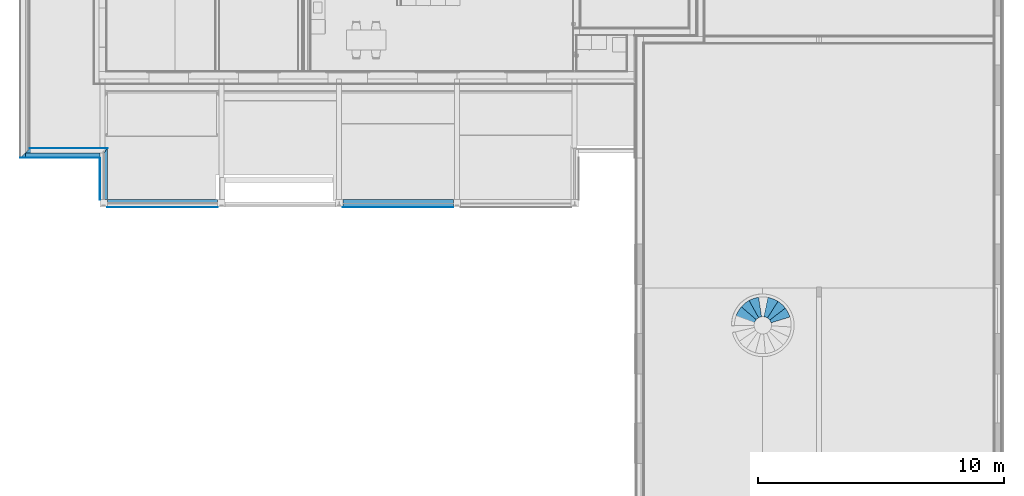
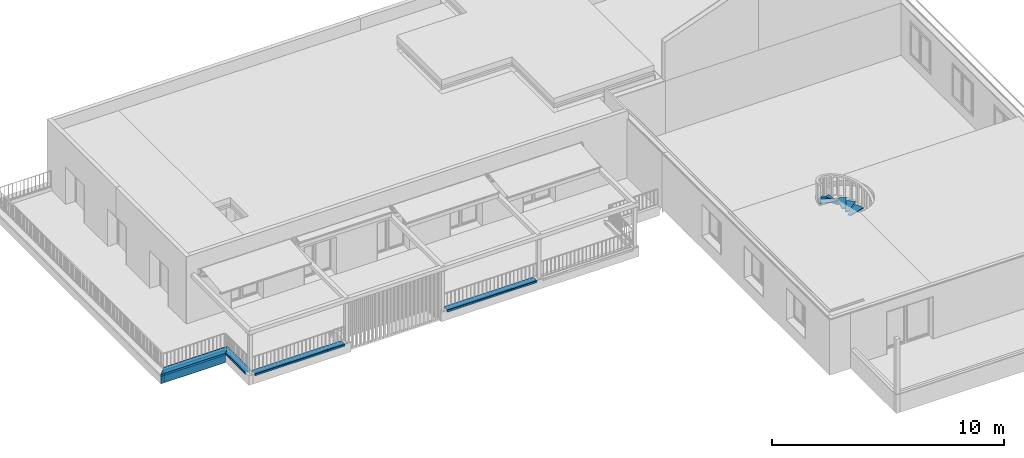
# One storey, part 5 of 36: 16 building element parts, 6 elements without a shape of their own.
"""IFC4 building model written with IfcOpenShell, lengths in millimetres."""

import ifcopenshell
import ifcopenshell.guid

model = None  # the IFC model being written
_history = None  # IfcOwnerHistory: only IFC2X3 demands one
_inside = {}  # id of a spatial element -> (the spatial element, [elements in it])
_under = {}  # id of a project, library or spatial element -> (it, [spatial elements below it])
_declared = {}  # id of a project -> (the project, [libraries it declares])
_typed = {}  # id of a type object -> (the type object, [elements of that type])
_made_of = {}  # id of a material, layer set ... -> (it, [elements and type objects made of it])


def new_model(schema):
    """Start an empty IFC model of exactly this schema.

    Asked for "IFC4X3", IfcOpenShell would pick the latest addendum, in which some entities
    have other attributes; the version numbers below select the first issue.
    IFC2X3 requires an IfcOwnerHistory on every rooted entity: one is made here for all.
    """
    global model, _history
    if schema == "IFC4X3":
        model = ifcopenshell.file(schema_version=(4, 3, 0, 0))
    else:
        model = ifcopenshell.file(schema=schema)
    _inside.clear()
    _under.clear()
    _declared.clear()
    _typed.clear()
    _made_of.clear()
    _history = None
    if model.schema == "IFC2X3":
        org = make("IfcOrganization", Name="unknown")
        user = make(
            "IfcPersonAndOrganization",
            ThePerson=make("IfcPerson", FamilyName="unknown"),
            TheOrganization=org,
        )
        app = make(
            "IfcApplication",
            ApplicationDeveloper=org,
            Version="unknown",
            ApplicationFullName="unknown",
            ApplicationIdentifier="unknown",
        )
        _history = make(
            "IfcOwnerHistory",
            OwningUser=user,
            OwningApplication=app,
            ChangeAction="ADDED",
            CreationDate=0,
        )
    return model


def make(cls, **values):
    """One entity of the class cls with the attributes given. An attribute that is None is left unset."""
    return model.create_entity(
        cls, **{name: value for name, value in values.items() if value is not None}
    )


def entity(cls, *values):
    """Any entity or typed value of the class cls, its attributes in the order of the schema. None: left unset."""
    e = model.create_entity(cls)
    for i, value in enumerate(values):
        if value is not None:
            e[i] = value
    return e


def rooted(cls, **values):
    """An entity with a GlobalId (a new one), such as an element, a storey or a relation."""
    return make(cls, GlobalId=ifcopenshell.guid.new(), OwnerHistory=_history, **values)


def si_unit(unit_type, name, prefix=None):
    """IfcSIUnit, for example si_unit("LENGTHUNIT", "METRE", prefix="MILLI")."""
    return make("IfcSIUnit", UnitType=unit_type, Prefix=prefix, Name=name)


def converted_unit(unit_type, name, factor, base, dimensions=None, offset=None):
    """IfcConversionBasedUnit, such as the inch: factor (a typed value) times the base unit."""
    return make(
        "IfcConversionBasedUnit"
        if offset is None
        else "IfcConversionBasedUnitWithOffset",
        ConversionOffset=offset,
        Dimensions=None
        if dimensions is None
        else entity("IfcDimensionalExponents", *dimensions),
        UnitType=unit_type,
        Name=name,
        ConversionFactor=make(
            "IfcMeasureWithUnit", ValueComponent=factor, UnitComponent=base
        ),
    )


def derived_unit(unit_type, elements):
    """IfcDerivedUnit: a product of units, each with its exponent."""
    return make(
        "IfcDerivedUnit",
        Elements=[
            make("IfcDerivedUnitElement", Unit=unit, Exponent=power)
            for unit, power in elements
        ],
        UnitType=unit_type,
    )


def assignment(units):
    """IfcUnitAssignment: the units of a project."""
    return None if units is None else make("IfcUnitAssignment", Units=units)


def point(xyz):
    """IfcCartesianPoint."""
    return None if xyz is None else make("IfcCartesianPoint", Coordinates=xyz)


def direction(xyz):
    """IfcDirection."""
    return None if xyz is None else make("IfcDirection", DirectionRatios=xyz)


def frame(location, z_axis=None, x_axis=None):
    """IfcAxis2Placement3D, a coordinate frame: its origin and axes. An axis left out is left unset."""
    return make(
        "IfcAxis2Placement3D",
        Location=point(location),
        Axis=direction(z_axis),
        RefDirection=direction(x_axis),
    )


def origin_with_axes():
    """The frame at (0, 0, 0) with the z axis (0, 0, 1) and the x axis (1, 0, 0) written out."""
    return frame((0.0, 0.0, 0.0), z_axis=(0.0, 0.0, 1.0), x_axis=(1.0, 0.0, 0.0))


def place(relative_to, where):
    """IfcLocalPlacement: puts the frame where relative to a parent placement (None: the world)."""
    return make(
        "IfcLocalPlacement", PlacementRelTo=relative_to, RelativePlacement=where
    )


def context(
    kind, dimensions, precision=None, world=None, true_north=None, identifier=None
):
    """IfcGeometricRepresentationContext, for example the 3D "Model" context."""
    return make(
        "IfcGeometricRepresentationContext",
        ContextIdentifier=identifier,
        ContextType=kind,
        CoordinateSpaceDimension=dimensions,
        Precision=precision,
        WorldCoordinateSystem=world,
        TrueNorth=true_north,
    )


def subcontext(parent, identifier, kind, view, scale=None):
    """IfcGeometricRepresentationSubContext, for example "Body" below "Model"."""
    return make(
        "IfcGeometricRepresentationSubContext",
        ContextIdentifier=identifier,
        ContextType=kind,
        ParentContext=parent,
        TargetScale=scale,
        TargetView=view,
    )


def project(units=None, contexts=None):
    """IfcProject with its units and contexts."""
    return rooted(
        "IfcProject",
        Name="project",
        RepresentationContexts=contexts,
        UnitsInContext=assignment(units),
    )


def spatial(cls, under=None, at=None, **own):
    """A site, building, storey or space (cls), placed at a placement, below another one or the project."""
    s = rooted(cls, ObjectPlacement=at, **own)
    if under is not None:
        _under.setdefault(under.id(), (under, []))[1].append(s)
    return s


def point_list(points):
    """IfcCartesianPointList2D or 3D."""
    cls = (
        "IfcCartesianPointList2D" if len(points[0]) == 2 else "IfcCartesianPointList3D"
    )
    return make(cls, CoordList=points)


def polygons(points, faces, closed=None, point_numbers=None):
    """IfcPolygonalFaceSet: a face is its outer loop, then its inner loops; points numbered from 1."""
    made = []
    for loops in faces:
        if len(loops) == 1:
            made.append(make("IfcIndexedPolygonalFace", CoordIndex=loops[0]))
        else:
            made.append(
                make(
                    "IfcIndexedPolygonalFaceWithVoids",
                    CoordIndex=loops[0],
                    InnerCoordIndices=loops[1:],
                )
            )
    return make(
        "IfcPolygonalFaceSet",
        Coordinates=point_list(points),
        Closed=closed,
        Faces=made,
        PnIndex=point_numbers,
    )


def shape(context_of_items, identifier, shape_type, items):
    """IfcShapeRepresentation: the items that make up one representation, for example the "Body"."""
    return make(
        "IfcShapeRepresentation",
        ContextOfItems=context_of_items,
        RepresentationIdentifier=identifier,
        RepresentationType=shape_type,
        Items=items,
    )


def material(Name=None, Category=None):
    """IfcMaterial."""
    return make("IfcMaterial", Name=Name, Category=Category)


def made_of(thing, what):
    """Note that an element or type object is made of a material, layer set ...; save() writes the relation."""
    if what is not None:
        _made_of.setdefault(what.id(), (what, []))[1].append(thing)
    return thing


def type_object(cls, material=None, **own):
    """A type object (cls), such as IfcWallType, which elements share."""
    return made_of(rooted(cls, **own), material)


def element(
    cls,
    number,
    at=None,
    inside=None,
    cuts=None,
    type_object=None,
    material=None,
    context=None,
    identifier="Body",
    shape_type=None,
    held_by="IfcProductDefinitionShape",
    body=None,
    shapes=None,
    **own,
):
    """One element of the class cls, such as IfcWall. Its Tag is "e" and its number.

    at: its placement. inside: the storey or other place that contains it. cuts: it is an
    opening in that element (IfcRelVoidsElement). A single representation is given by context,
    identifier, shape_type and body (its items); several are given by shapes. held_by: the class
    of the entity that holds the representations. save() writes the other relations.
    """
    e = rooted(cls, Tag="e%d" % number, ObjectPlacement=at, **own)
    if body is not None:
        shapes = [shape(context, identifier, shape_type, body)]
    if shapes is not None:
        e.Representation = make(held_by, Representations=shapes)
    if inside is not None:
        _inside.setdefault(inside.id(), (inside, []))[1].append(e)
    if cuts is not None:
        rooted(
            "IfcRelVoidsElement", RelatingBuildingElement=cuts, RelatedOpeningElement=e
        )
    if type_object is not None:
        _typed.setdefault(type_object.id(), (type_object, []))[1].append(e)
    return made_of(e, material)


def aggregate(whole, parts):
    """IfcRelAggregates: a whole, such as a stair, and the parts it consists of."""
    return rooted("IfcRelAggregates", RelatingObject=whole, RelatedObjects=parts)


def save(model, path):
    """Write the relations noted so far, then the file.

    IfcRelAggregates (storeys below a building ...), IfcRelContainedInSpatialStructure (elements
    in a storey), IfcRelDefinesByType, IfcRelAssociatesMaterial and IfcRelDeclares: one each for
    every whole, place, type object, material and project.
    """
    for whole, parts in _under.values():
        aggregate(whole, parts)
    for where, things in _inside.values():
        rooted(
            "IfcRelContainedInSpatialStructure",
            RelatedElements=things,
            RelatingStructure=where,
        )
    for kind, things in _typed.values():
        rooted("IfcRelDefinesByType", RelatedObjects=things, RelatingType=kind)
    for what, things in _made_of.values():
        rooted("IfcRelAssociatesMaterial", RelatedObjects=things, RelatingMaterial=what)
    for by, libraries in _declared.values():
        rooted("IfcRelDeclares", RelatingContext=by, RelatedDefinitions=libraries)
    model.write(path)


model = new_model("IFC4")

# Units and contexts
model_context = context("Model", 3, precision=0.01, world=origin_with_axes(), true_north=direction((0.0, 1.0)))
body_context = subcontext(model_context, "Body", "Model", "MODEL_VIEW")
ifc_project = project(units=[si_unit("LENGTHUNIT", "METRE", prefix="MILLI"), si_unit("AREAUNIT", "SQUARE_METRE"), si_unit("VOLUMEUNIT", "CUBIC_METRE"), converted_unit("PLANEANGLEUNIT", "DEGREE", entity("IfcPlaneAngleMeasure", 0.0174532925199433), si_unit("PLANEANGLEUNIT", "RADIAN"), dimensions=[0, 0, 0, 0, 0, 0, 0]), converted_unit("TIMEUNIT", "Year", entity("IfcTimeMeasure", 31557600.0), si_unit("TIMEUNIT", "SECOND"), dimensions=[0, 0, 1, 0, 0, 0, 0]), si_unit("MASSUNIT", "GRAM", prefix="KILO"), si_unit("THERMODYNAMICTEMPERATUREUNIT", "DEGREE_CELSIUS"), si_unit("LUMINOUSINTENSITYUNIT", "LUMEN"), si_unit("ENERGYUNIT", "JOULE", prefix="MEGA"), derived_unit("THERMALCONDUCTANCEUNIT", [(si_unit("POWERUNIT", "WATT"), 1), (si_unit("LENGTHUNIT", "METRE"), -1), (si_unit("THERMODYNAMICTEMPERATUREUNIT", "KELVIN"), -1)]), derived_unit("SPECIFICHEATCAPACITYUNIT", [(si_unit("ENERGYUNIT", "JOULE"), 1), (si_unit("MASSUNIT", "GRAM", prefix="KILO"), -1), (si_unit("THERMODYNAMICTEMPERATUREUNIT", "KELVIN"), -1)]), derived_unit("MASSDENSITYUNIT", [(si_unit("MASSUNIT", "GRAM", prefix="KILO"), 1), (si_unit("VOLUMEUNIT", "CUBIC_METRE"), -1)])], contexts=[model_context])

# Site, building, storey
site_placement = place(None, origin_with_axes())
site = spatial("IfcSite", under=ifc_project, at=site_placement, Name="Gelände", CompositionType="ELEMENT")
building_placement = place(site_placement, origin_with_axes())
building = spatial("IfcBuilding", under=site, at=building_placement, Name="Gebäude", CompositionType="ELEMENT")
storey_placement = place(building_placement, frame((0.0, 0.0, 8700.0), z_axis=(0.0, 0.0, 1.0), x_axis=(1.0, 0.0, 0.0)))
storey = spatial("IfcBuildingStorey", under=building, at=storey_placement, Name="Attika", CompositionType="ELEMENT", Elevation=8700.0)

# Stair, building element parts
stair_type = type_object("IfcStairType", Name="Treppentyp", PredefinedType="NOTDEFINED")
stair_placement = place(storey_placement, frame((22020.85993748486, 15863.01699226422, 650.0000000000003), z_axis=(0.0, 0.0, 1.0), x_axis=(0.8601646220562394, -0.5100164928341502, 0.0)))
stair = element("IfcStair", 1, at=stair_placement, inside=storey, type_object=stair_type, Name="Treppe-001", PredefinedType="NOTDEFINED")
ifc_material_1 = material(Name="Vollholzwerkstoff")
building_element_part_1_placement = place(stair_placement, origin_with_axes())
building_element_part_1 = element("IfcBuildingElementPart", 2, at=building_element_part_1_placement, material=ifc_material_1, Name="Vollholzwerkstoff", PredefinedType="NOTDEFINED", context=body_context, shape_type="Tessellation", body=[
    polygons([(956.5999132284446, 1134.421102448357, 1739.411697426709), (1255.364837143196, 1876.539368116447, 1739.411697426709), (1255.364837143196, 1876.539368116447, 1779.411697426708), (956.5999132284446, 1134.421102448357, 1779.411697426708), (907.2066737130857, 1150.205732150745, 1739.411697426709), (856.0355163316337, 1158.593777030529, 1739.411697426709), (804.1877676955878, 1159.404706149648, 1739.411697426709), (825.9681831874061, 1959.993727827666, 1739.411697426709), (913.8979181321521, 1956.532647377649, 1739.411697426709), (1001.307912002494, 1946.378321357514, 1739.411697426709), (1087.689418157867, 1929.589850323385, 1739.411697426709), (1172.53967599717, 1906.26494710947, 1739.411697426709), (1172.53967599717, 1906.26494710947, 1779.411697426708), (1087.689418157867, 1929.589850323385, 1779.411697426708), (1001.307912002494, 1946.378321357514, 1779.411697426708), (913.8979181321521, 1956.532647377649, 1779.411697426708), (825.9681831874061, 1959.993727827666, 1779.411697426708), (804.1877676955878, 1159.404706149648, 1779.411697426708), (856.0355163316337, 1158.593777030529, 1779.411697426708), (907.2066737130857, 1150.205732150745, 1779.411697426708)], [[[1, 2, 3, 4]], [[1, 5, 6, 7, 8, 9, 10, 11, 12, 2]], [[2, 12, 13, 3]], [[4, 3, 13, 14, 15, 16, 17, 18, 19, 20]], [[5, 1, 4, 20]], [[6, 5, 20, 19]], [[7, 6, 19, 18]], [[8, 7, 18, 17]], [[9, 8, 17, 16]], [[10, 9, 16, 15]], [[11, 10, 15, 14]], [[12, 11, 14, 13]]], closed=True),
])
building_element_part_2_placement = place(stair_placement, origin_with_axes())
building_element_part_2 = element("IfcBuildingElementPart", 3, at=building_element_part_2_placement, material=ifc_material_1, Name="Vollholzwerkstoff", PredefinedType="NOTDEFINED", context=body_context, shape_type="Tessellation", body=[
    polygons([(834.2113578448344, 1159.863809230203, 1901.176397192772), (855.967698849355, 1959.567918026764, 1901.176397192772), (855.967698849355, 1959.567918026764, 1941.176397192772), (834.2113578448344, 1159.863809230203, 1941.176397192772), (782.4126450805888, 1157.467979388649, 1901.176397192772), (731.5218826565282, 1147.519263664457, 1901.176397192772), (682.6343624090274, 1130.231782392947, 1901.176397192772), (424.3754214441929, 1888.334339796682, 1901.176397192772), (508.0108894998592, 1915.697195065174, 1901.176397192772), (593.488974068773, 1936.604476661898, 1901.176397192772), (680.312172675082, 1950.934499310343, 1901.176397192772), (767.9751539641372, 1958.603858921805, 1901.176397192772), (767.9751539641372, 1958.603858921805, 1941.176397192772), (680.312172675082, 1950.934499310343, 1941.176397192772), (593.488974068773, 1936.604476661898, 1941.176397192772), (508.0108894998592, 1915.697195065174, 1941.176397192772), (424.3754214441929, 1888.334339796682, 1941.176397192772), (682.6343624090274, 1130.231782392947, 1941.176397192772), (731.5218826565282, 1147.519263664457, 1941.176397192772), (782.4126450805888, 1157.467979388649, 1941.176397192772)], [[[1, 2, 3, 4]], [[1, 5, 6, 7, 8, 9, 10, 11, 12, 2]], [[2, 12, 13, 3]], [[4, 3, 13, 14, 15, 16, 17, 18, 19, 20]], [[5, 1, 4, 20]], [[6, 5, 20, 19]], [[7, 6, 19, 18]], [[8, 7, 18, 17]], [[9, 8, 17, 16]], [[10, 9, 16, 15]], [[11, 10, 15, 14]], [[12, 11, 14, 13]]], closed=True),
])
building_element_part_3_placement = place(stair_placement, origin_with_axes())
building_element_part_3 = element("IfcBuildingElementPart", 4, at=building_element_part_3_placement, material=ifc_material_1, Name="Vollholzwerkstoff", PredefinedType="NOTDEFINED", context=body_context, shape_type="Tessellation", body=[
    polygons([(601.2858266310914, 1080.514253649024, 2224.705796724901), (95.8493175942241, 1700.622256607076, 2224.705796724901), (95.8493175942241, 1700.622256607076, 2264.705796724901), (601.2858266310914, 1080.514253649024, 2264.705796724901), (563.6033039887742, 1044.892994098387, 2224.705796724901), (531.5380359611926, 1004.141733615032, 2224.705796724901), (505.7801443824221, 959.1375375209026, 2224.705796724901), (-184.6636001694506, 1364.975687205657, 2224.705796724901), (-139.1539706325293, 1440.291628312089, 2224.705796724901), (-88.03507349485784, 1511.918967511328, 2224.705796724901), (-31.60443271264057, 1579.4408169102, 2224.705796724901), (29.80951216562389, 1642.46418352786, 2224.705796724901), (29.80951216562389, 1642.46418352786, 2264.705796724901), (-31.60443271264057, 1579.4408169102, 2264.705796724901), (-88.03507349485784, 1511.918967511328, 2264.705796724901), (-139.1539706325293, 1440.291628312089, 2264.705796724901), (-184.6636001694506, 1364.975687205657, 2264.705796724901), (505.7801443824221, 959.1375375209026, 2264.705796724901), (531.5380359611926, 1004.141733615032, 2264.705796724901), (563.6033039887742, 1044.892994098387, 2264.705796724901)], [[[1, 2, 3, 4]], [[1, 5, 6, 7, 8, 9, 10, 11, 12, 2]], [[2, 12, 13, 3]], [[4, 3, 13, 14, 15, 16, 17, 18, 19, 20]], [[5, 1, 4, 20]], [[6, 5, 20, 19]], [[7, 6, 19, 18]], [[8, 7, 18, 17]], [[9, 8, 17, 16]], [[10, 9, 16, 15]], [[11, 10, 15, 14]], [[12, 11, 14, 13]]], closed=True),
])
building_element_part_4_placement = place(stair_placement, origin_with_axes())
building_element_part_4 = element("IfcBuildingElementPart", 5, at=building_element_part_4_placement, material=ifc_material_1, Name="Vollholzwerkstoff", PredefinedType="NOTDEFINED", context=body_context, shape_type="Tessellation", body=[
    polygons([(519.8826974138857, 985.6468705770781, 2386.470496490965), (-169.7978808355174, 1391.036436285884, 2386.470496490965), (-169.7978808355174, 1391.036436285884, 2426.470496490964), (519.8826974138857, 985.6468705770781, 2426.470496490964), (496.9562141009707, 939.1364093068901, 2386.470496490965), (481.0813913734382, 889.7720836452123, 2386.470496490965), (472.5998936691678, 838.616332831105, 2386.470496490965), (-315.9325112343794, 978.7370470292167, 2386.470496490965), (-299.4857518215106, 1065.184264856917, 2386.470496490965), (-276.4965562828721, 1150.126093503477, 2386.470496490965), (-247.0987271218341, 1233.068151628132, 2386.470496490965), (-211.4633665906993, 1313.527697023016, 2386.470496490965), (-211.4633665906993, 1313.527697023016, 2426.470496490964), (-247.0987271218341, 1233.068151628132, 2426.470496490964), (-276.4965562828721, 1150.126093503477, 2426.470496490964), (-299.4857518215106, 1065.184264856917, 2426.470496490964), (-315.9325112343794, 978.7370470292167, 2426.470496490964), (472.5998936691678, 838.616332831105, 2426.470496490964), (481.0813913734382, 889.7720836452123, 2426.470496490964), (496.9562141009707, 939.1364093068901, 2426.470496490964)], [[[1, 2, 3, 4]], [[1, 5, 6, 7, 8, 9, 10, 11, 12, 2]], [[2, 12, 13, 3]], [[4, 3, 13, 14, 15, 16, 17, 18, 19, 20]], [[5, 1, 4, 20]], [[6, 5, 20, 19]], [[7, 6, 19, 18]], [[8, 7, 18, 17]], [[9, 8, 17, 16]], [[10, 9, 16, 15]], [[11, 10, 15, 14]], [[12, 11, 14, 13]]], closed=True),
])
building_element_part_5_placement = place(stair_placement, origin_with_axes())
building_element_part_5 = element("IfcBuildingElementPart", 6, at=building_element_part_5_placement, material=ifc_material_1, Name="Vollholzwerkstoff", PredefinedType="NOTDEFINED", context=body_context, shape_type="Tessellation", body=[
    polygons([(1062.478056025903, 1067.967293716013, 1577.646997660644), (1600.882660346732, 1659.677089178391, 1577.646997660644), (1600.882660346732, 1659.677089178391, 1617.646997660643), (1062.478056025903, 1067.967293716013, 1617.646997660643), (1021.668294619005, 1099.95807392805, 1577.646997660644), (976.6171254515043, 1125.633720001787, 1577.646997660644), (928.2941582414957, 1144.441630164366, 1577.646997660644), (1227.389680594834, 1887.381087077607, 1577.646997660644), (1308.615611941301, 1853.528975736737, 1577.646997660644), (1387.024452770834, 1813.583124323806, 1577.646997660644), (1462.159845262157, 1767.776027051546, 1577.646997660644), (1533.584483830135, 1716.374291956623, 1577.646997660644), (1533.584483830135, 1716.374291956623, 1617.646997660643), (1462.159845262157, 1767.776027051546, 1617.646997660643), (1387.024452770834, 1813.583124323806, 1617.646997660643), (1308.615611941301, 1853.528975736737, 1617.646997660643), (1227.389680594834, 1887.381087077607, 1617.646997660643), (928.2941582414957, 1144.441630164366, 1617.646997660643), (976.6171254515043, 1125.633720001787, 1617.646997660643), (1021.668294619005, 1099.95807392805, 1617.646997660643)], [[[1, 2, 3, 4]], [[1, 5, 6, 7, 8, 9, 10, 11, 12, 2]], [[2, 12, 13, 3]], [[4, 3, 13, 14, 15, 16, 17, 18, 19, 20]], [[5, 1, 4, 20]], [[6, 5, 20, 19]], [[7, 6, 19, 18]], [[8, 7, 18, 17]], [[9, 8, 17, 16]], [[10, 9, 16, 15]], [[11, 10, 15, 14]], [[12, 11, 14, 13]]], closed=True),
])
building_element_part_6_placement = place(stair_placement, origin_with_axes())
building_element_part_6 = element("IfcBuildingElementPart", 7, at=building_element_part_6_placement, material=ifc_material_1, Name="Vollholzwerkstoff", PredefinedType="NOTDEFINED", context=body_context, shape_type="Tessellation", body=[
    polygons([(476.592847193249, 868.37676063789, 2548.23519625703), (-311.0679713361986, 1008.34259558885, 2548.23519625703), (-311.0679713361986, 1008.34259558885, 2588.235196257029), (476.592847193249, 868.37676063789, 2588.235196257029), (471.2900006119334, 816.7945305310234, 2548.23519625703), (473.5912133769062, 764.9915280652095, 2548.23519625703), (483.4469578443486, 714.0826786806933, 2548.23519625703), (-304.5460952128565, 570.959946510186, 2548.23519625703), (-319.2193327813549, 657.7258007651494, 2548.23519625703), (-327.2352801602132, 745.3577695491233, 2548.23519625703), (-328.5472826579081, 833.3458142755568, 2548.23519625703), (-323.1477041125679, 921.1778239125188, 2548.23519625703), (-323.1477041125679, 921.1778239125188, 2588.235196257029), (-328.5472826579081, 833.3458142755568, 2588.235196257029), (-327.2352801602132, 745.3577695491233, 2588.235196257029), (-319.2193327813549, 657.7258007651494, 2588.235196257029), (-304.5460952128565, 570.959946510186, 2588.235196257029), (483.4469578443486, 714.0826786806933, 2588.235196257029), (473.5912133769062, 764.9915280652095, 2588.235196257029), (471.2900006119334, 816.7945305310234, 2588.235196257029)], [[[1, 2, 3, 4]], [[1, 5, 6, 7, 8, 9, 10, 11, 12, 2]], [[2, 12, 13, 3]], [[4, 3, 13, 14, 15, 16, 17, 18, 19, 20]], [[5, 1, 4, 20]], [[6, 5, 20, 19]], [[7, 6, 19, 18]], [[8, 7, 18, 17]], [[9, 8, 17, 16]], [[10, 9, 16, 15]], [[11, 10, 15, 14]], [[12, 11, 14, 13]]], closed=True),
])
aggregate(stair, [building_element_part_1, building_element_part_2, building_element_part_3, building_element_part_4, building_element_part_5, building_element_part_6])

# Curtain wall, building element parts
curtain_wall_type = type_object("IfcCurtainWallType", Name="Fassade Typ 01 - Kompaktfassade 210", PredefinedType="NOTDEFINED")
curtain_wall_placement = place(storey_placement, frame((-7071.00418150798, 22947.59674077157, 0.0), z_axis=(0.0, 0.0, 1.0), x_axis=(1.0, 0.0, 0.0)))
curtain_wall = element("IfcCurtainWall", 8, at=curtain_wall_placement, inside=storey, type_object=curtain_wall_type, Name="Wand-014", PredefinedType="NOTDEFINED")
ifc_material_2 = material(Name="Zementputz Aussen")
building_element_part_7_placement = place(curtain_wall_placement, origin_with_axes())
building_element_part_7 = element("IfcBuildingElementPart", 9, at=building_element_part_7_placement, material=ifc_material_2, Name="Zementputz Aussen", PredefinedType="NOTDEFINED", context=body_context, shape_type="Tessellation", body=[
    polygons([(3245.800000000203, 10.0000000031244, 0.0), (3245.800000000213, 3.12283532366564e-09, 0.0), (10.00000000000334, 0.0, 0.0), (9.99999999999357, 10.00000000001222, 0.0), (3245.800000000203, 10.0000000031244, 500.0), (3245.800000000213, 3.12283532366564e-09, 500.0), (10.00000000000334, 0.0, 500.0), (9.99999999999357, 10.00000000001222, 500.0)], [[[1, 2, 3, 4]], [[2, 1, 5, 6]], [[2, 6, 7, 3]], [[8, 4, 3, 7]], [[5, 1, 4, 8]], [[6, 5, 8, 7]]], closed=True),
])
ifc_material_3 = material(Name="Dämmung Aussen")
building_element_part_8_placement = place(curtain_wall_placement, origin_with_axes())
building_element_part_8 = element("IfcBuildingElementPart", 10, at=building_element_part_8_placement, material=ifc_material_3, Name="Dämmung Aussen", PredefinedType="NOTDEFINED", context=body_context, shape_type="Tessellation", body=[
    polygons([(3245.800000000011, 210.0000000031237, 0.0), (3245.800000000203, 10.0000000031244, 0.0), (209.9999999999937, 10.00000000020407, 0.0), (209.9999999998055, 210.0000000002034, 0.0), (3245.800000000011, 210.0000000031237, 500.0), (3245.800000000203, 10.0000000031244, 500.0), (209.9999999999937, 10.00000000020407, 500.0), (209.9999999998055, 210.0000000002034, 500.0)], [[[1, 2, 3, 4]], [[2, 1, 5, 6]], [[2, 6, 7, 3]], [[8, 4, 3, 7]], [[5, 1, 4, 8]], [[6, 5, 8, 7]]], closed=True),
])
aggregate(curtain_wall, [building_element_part_7, building_element_part_8])

# Covering, building element parts
covering_type_1 = type_object("IfcCoveringType", Name="Brüstungsabdeckung 05 405 x 100", PredefinedType="NOTDEFINED")
covering_1_placement = place(storey_placement, frame((-3817.50409423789, 23157.59674076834, 500.0), z_axis=(0.0, 0.0, 1.0), x_axis=(0.0, 1.0, 0.0)))
covering_1 = element("IfcCovering", 11, at=covering_1_placement, inside=storey, type_object=covering_type_1, Name="Unterzug-027", PredefinedType="NOTDEFINED")
ifc_material_4 = material(Name="Stahl")
building_element_part_9_placement = place(covering_1_placement, origin_with_axes())
building_element_part_9 = element("IfcBuildingElementPart", 12, at=building_element_part_9_placement, material=ifc_material_4, Name="Stahl", PredefinedType="NOTDEFINED", context=body_context, shape_type="Tessellation", body=[
    polygons([(-217.7000901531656, 3261.200177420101, 2.52675749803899), (-217.7001324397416, 3261.200219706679, -97.47324404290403), (-217.7001324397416, 7.700087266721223, -97.47324404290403), (-217.7000901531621, 7.700054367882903, 2.52675749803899), (184.9999986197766, 2858.500088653, 2.52675749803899), (184.9999986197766, 2858.500088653, 1.533122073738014e-06), (-215.0000015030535, 3258.50008877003, 1.533122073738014e-06), (-215.0000860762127, 3258.500173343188, -97.47324404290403), (-215.0000860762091, 5.599458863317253, -97.47324404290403), (-215.0000015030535, 5.5993930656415, 1.533122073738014e-06), (184.9999986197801, -305.5994711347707, 1.533122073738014e-06), (184.9999986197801, -305.5994711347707, 2.52675749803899)], [[[1, 2, 3, 4]], [[1, 5, 6, 7, 8, 2]], [[2, 8, 9, 3]], [[4, 3, 9, 10, 11, 12]], [[5, 1, 4, 12]], [[6, 5, 12, 11]], [[7, 6, 11, 10]], [[8, 7, 10, 9]]], closed=True),
])
building_element_part_10_placement = place(covering_1_placement, origin_with_axes())
building_element_part_10 = element("IfcBuildingElementPart", 13, at=building_element_part_10_placement, material=ifc_material_4, Name="Stahl", PredefinedType="NOTDEFINED", context=body_context, shape_type="Tessellation", body=[
    polygons([(185.0000002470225, 2858.500087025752, -5.935394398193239e-07), (184.9999138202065, 2858.50017345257, -97.47324404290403), (184.9999138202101, -305.5994051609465, -97.47324404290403), (185.000000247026, -305.5994724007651, -5.935394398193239e-07), (185.0000002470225, 2858.500087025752, 2.526755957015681), (187.7000872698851, 2855.800000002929, 2.526755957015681), (187.6999606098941, 2855.80012666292, -97.47324404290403), (187.6999606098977, -307.7000338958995, -97.47324404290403), (187.7000872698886, -307.7001324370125, 2.526755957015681), (185.000000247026, -305.5994724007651, 2.526755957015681)], [[[1, 2, 3, 4]], [[1, 5, 6, 7, 2]], [[2, 7, 8, 3]], [[4, 3, 8, 9, 10]], [[5, 1, 4, 10]], [[6, 5, 10, 9]], [[7, 6, 9, 8]]], closed=True),
])
aggregate(covering_1, [building_element_part_9, building_element_part_10])

covering_type_2 = type_object("IfcCoveringType", Name="Brüstungsabdeckung 04 315 x 100", PredefinedType="NOTDEFINED")
covering_2_placement = place(storey_placement, frame((-3817.504094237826, 21247.59674077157, 497.4732440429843), z_axis=(0.0, 0.0, 1.0), x_axis=(1.0, 0.0, 0.0)))
covering_2 = element("IfcCovering", 14, at=covering_2_placement, inside=storey, type_object=covering_type_2, Name="Unterzug-027", PredefinedType="NOTDEFINED")
building_element_part_11_placement = place(covering_2_placement, origin_with_axes())
building_element_part_11 = element("IfcBuildingElementPart", 15, at=building_element_part_11_placement, material=ifc_material_4, Name="Stahl", PredefinedType="NOTDEFINED", context=body_context, shape_type="Tessellation", body=[
    polygons([(-4.999999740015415, 1695.770429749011, 2.526754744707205), (-4.999999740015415, 1695.770429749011, -2.907372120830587e-06), (-4.999999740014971, 0.0, -2.907372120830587e-06), (-4.999999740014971, 0.0, 2.526754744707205), (307.7000901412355, 2097.700032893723, 2.526754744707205), (307.7001324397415, 2097.700087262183, -97.47324404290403), (305.0000872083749, 2094.229579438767, -97.47324404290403), (304.999997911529, 2094.229464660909, 1.792463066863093e-06), (304.999997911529, 0.0, 1.792463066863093e-06), (305.0000872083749, 0.0, -97.47324404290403), (307.7001324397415, 0.0, -97.47324404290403), (307.7000901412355, 0.0, 2.526754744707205)], [[[1, 2, 3, 4]], [[1, 5, 6, 7, 8, 2]], [[2, 8, 9, 3]], [[4, 3, 9, 10, 11, 12]], [[5, 1, 4, 12]], [[6, 5, 12, 11]], [[7, 6, 11, 10]], [[8, 7, 10, 9]]], closed=True),
])
building_element_part_12_placement = place(covering_2_placement, origin_with_axes())
building_element_part_12 = element("IfcBuildingElementPart", 16, at=building_element_part_12_placement, material=ifc_material_4, Name="Stahl", PredefinedType="NOTDEFINED", context=body_context, shape_type="Tessellation", body=[
    polygons([(-5.000000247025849, 1695.770429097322, 2.526755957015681), (-7.700087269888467, 1692.299867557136, 2.526755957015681), (-7.700087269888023, 0.0, 2.526755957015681), (-5.000000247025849, 0.0, 2.526755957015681), (-5.000000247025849, 1695.770429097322, -5.935394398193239e-07), (-4.99991382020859, 1695.770540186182, -97.47324404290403), (-7.699960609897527, 1692.300030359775, -97.47324404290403), (-7.699960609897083, 0.0, -97.47324404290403), (-4.99991382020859, 0.0, -97.47324404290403), (-5.000000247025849, 0.0, -5.935394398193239e-07)], [[[1, 2, 3, 4]], [[1, 5, 6, 7, 2]], [[2, 7, 8, 3]], [[4, 3, 8, 9, 10]], [[5, 1, 4, 10]], [[6, 5, 10, 9]], [[7, 6, 9, 8]]], closed=True),
])
aggregate(covering_2, [building_element_part_11, building_element_part_12])

covering_3_placement = place(storey_placement, frame((-3525.204181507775, 20955.29682804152, 497.4732440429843), z_axis=(0.0, 0.0, 1.0), x_axis=(0.0, -1.0, 0.0)))
covering_3 = element("IfcCovering", 17, at=covering_3_placement, inside=storey, type_object=covering_type_2, Name="Unterzug-027", PredefinedType="NOTDEFINED")
building_element_part_13_placement = place(covering_3_placement, origin_with_axes())
building_element_part_13 = element("IfcBuildingElementPart", 18, at=building_element_part_13_placement, material=ifc_material_4, Name="Stahl", PredefinedType="NOTDEFINED", context=body_context, shape_type="Tessellation", body=[
    polygons([(-307.7000912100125, 12.7000851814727, 1.792463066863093e-06), (-307.7001324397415, 12.70017447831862, -97.47324404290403), (-307.7001324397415, 0.0, -97.47324404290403), (-307.7000912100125, 0.0, 1.599918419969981e-06), (-304.9999979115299, 12.7000851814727, 1.792463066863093e-06), (-305.0000872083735, 12.70017447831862, -97.47324404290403), (-305.0000872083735, 0.0, -97.47324404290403), (-304.9999979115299, 0.0, 1.599918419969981e-06)], [[[1, 2, 3, 4]], [[2, 1, 5, 6]], [[2, 6, 7, 3]], [[8, 4, 3, 7]], [[1, 4, 8, 5]], [[5, 8, 7, 6]]], closed=True),
    polygons([(-307.7001324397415, 15.40021970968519, -97.47324404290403), (-307.7000901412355, 15.40017741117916, 2.526754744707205), (-307.7000901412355, 4490.8, 2.526754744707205), (-307.7001324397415, 4490.8, -97.47324404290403), (-292.299912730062, 15.40017741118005, 2.526754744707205), (-305.0000872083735, 15.40021970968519, -97.47324404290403), (-304.9999979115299, 15.40021970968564, 1.792463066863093e-06), (-292.299912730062, 15.40017847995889, 1.792463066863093e-06), (-292.299912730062, 0.0, 2.526754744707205), (4.999999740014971, 0.0, 2.526754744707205), (4.999999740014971, 4490.8, 2.526754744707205), (4.999999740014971, 4490.8, -2.907372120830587e-06), (-304.9999979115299, 4490.8, 1.792463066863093e-06), (-305.0000872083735, 4490.8, -97.47324404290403), (4.999999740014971, 0.0, -2.907372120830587e-06), (-292.299912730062, 0.0, 1.599920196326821e-06), (-292.299912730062, 12.70008518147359, 1.792463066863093e-06)], [[[1, 2, 3, 4]], [[5, 2, 1, 6, 7, 8]], [[5, 9, 10, 11, 3, 2]], [[4, 3, 11, 12, 13, 14]], [[6, 1, 4, 14]], [[7, 6, 14, 13]], [[8, 7, 13, 12, 15, 16, 17]], [[9, 5, 8, 17, 16]], [[9, 16, 15, 10]], [[15, 12, 11, 10]]], closed=True),
])
building_element_part_14_placement = place(covering_3_placement, origin_with_axes())
building_element_part_14 = element("IfcBuildingElementPart", 19, at=building_element_part_14_placement, material=ifc_material_4, Name="Stahl", PredefinedType="NOTDEFINED", context=body_context, shape_type="Tessellation", body=[
    polygons([(5.000000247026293, 4490.8, -5.935394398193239e-07), (4.999913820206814, 4490.8, -97.47324404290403), (4.999913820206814, 0.0, -97.47324404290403), (5.000000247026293, 0.0, -5.935394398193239e-07), (5.000000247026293, 4490.8, 2.526755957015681), (7.700087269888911, 4490.8, 2.526755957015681), (7.699960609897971, 4490.8, -97.47324404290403), (7.699960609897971, 0.0, -97.47324404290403), (7.700087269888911, 0.0, 2.526755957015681), (5.000000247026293, 0.0, 2.526755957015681)], [[[1, 2, 3, 4]], [[1, 5, 6, 7, 2]], [[2, 7, 8, 3]], [[4, 3, 8, 9, 10]], [[5, 1, 4, 10]], [[6, 5, 10, 9]], [[7, 6, 9, 8]]], closed=True),
])
aggregate(covering_3, [building_element_part_13, building_element_part_14])

covering_4_placement = place(storey_placement, frame((6056.39581849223, 20955.29682804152, 497.4732440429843), z_axis=(0.0, 0.0, 1.0), x_axis=(0.0, -1.0, 0.0)))
covering_4 = element("IfcCovering", 20, at=covering_4_placement, inside=storey, type_object=covering_type_2, Name="Unterzug-027", PredefinedType="NOTDEFINED")
building_element_part_15_placement = place(covering_4_placement, origin_with_axes())
building_element_part_15 = element("IfcBuildingElementPart", 21, at=building_element_part_15_placement, material=ifc_material_4, Name="Stahl", PredefinedType="NOTDEFINED", context=body_context, shape_type="Tessellation", body=[
    polygons([(-307.7000901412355, 4490.8, 2.526754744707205), (-307.7001324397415, 4490.8, -97.47324404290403), (-307.7001324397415, 0.0, -97.47324404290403), (-307.7000901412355, 0.0, 2.526754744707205), (4.999999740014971, 4490.8, 2.526754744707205), (4.999999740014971, 4490.8, -2.907372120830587e-06), (-304.9999979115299, 4490.8, 1.792463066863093e-06), (-305.0000872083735, 4490.8, -97.47324404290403), (-305.0000872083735, 0.0, -97.47324404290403), (-304.9999979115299, 0.0, 1.792463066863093e-06), (4.999999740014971, 0.0, -2.907372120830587e-06), (4.999999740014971, 0.0, 2.526754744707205)], [[[1, 2, 3, 4]], [[1, 5, 6, 7, 8, 2]], [[2, 8, 9, 3]], [[4, 3, 9, 10, 11, 12]], [[5, 1, 4, 12]], [[6, 5, 12, 11]], [[7, 6, 11, 10]], [[8, 7, 10, 9]]], closed=True),
])
building_element_part_16_placement = place(covering_4_placement, origin_with_axes())
building_element_part_16 = element("IfcBuildingElementPart", 22, at=building_element_part_16_placement, material=ifc_material_4, Name="Stahl", PredefinedType="NOTDEFINED", context=body_context, shape_type="Tessellation", body=[
    polygons([(5.000000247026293, 4490.8, -5.935394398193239e-07), (4.999913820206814, 4490.8, -97.47324404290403), (4.999913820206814, 0.0, -97.47324404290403), (5.000000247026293, 0.0, -5.935394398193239e-07), (5.000000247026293, 4490.8, 2.526755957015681), (7.700087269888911, 4490.8, 2.526755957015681), (7.699960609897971, 4490.8, -97.47324404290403), (7.699960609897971, 0.0, -97.47324404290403), (7.700087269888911, 0.0, 2.526755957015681), (5.000000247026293, 0.0, 2.526755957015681)], [[[1, 2, 3, 4]], [[1, 5, 6, 7, 2]], [[2, 7, 8, 3]], [[4, 3, 8, 9, 10]], [[5, 1, 4, 10]], [[6, 5, 10, 9]], [[7, 6, 9, 8]]], closed=True),
])
aggregate(covering_4, [building_element_part_15, building_element_part_16])

save(model, "model.ifc")
